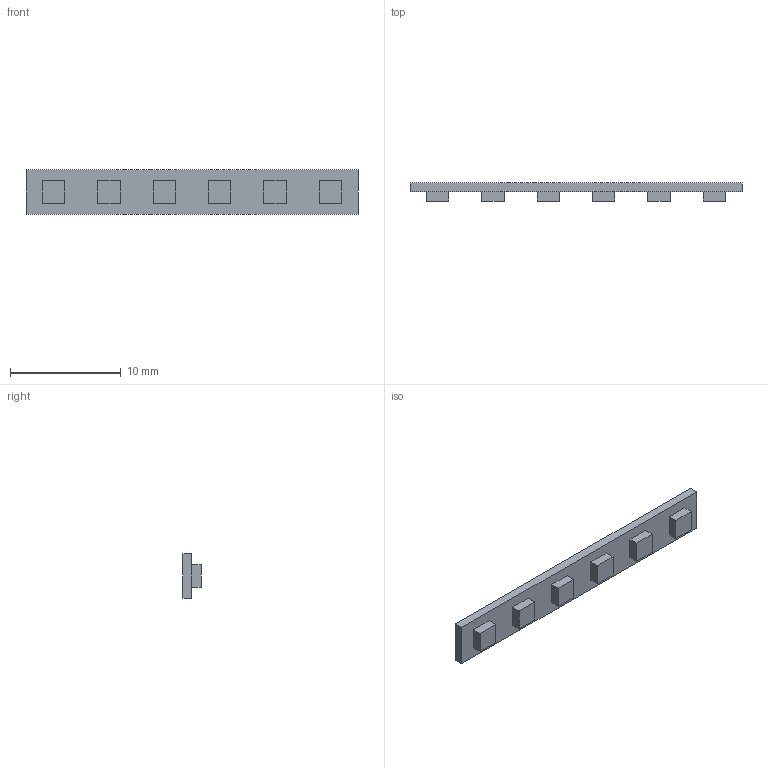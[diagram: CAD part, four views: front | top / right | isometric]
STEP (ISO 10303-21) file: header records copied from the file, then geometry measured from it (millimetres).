
FILE_DESCRIPTION(('Open CASCADE Model'),'2;1');
FILE_NAME('Open CASCADE Shape Model','2026-11-23T18:10:00',('Author'),( 'Open CASCADE'),'Open CASCADE STEP processor 8.0','build123d', 'Unknown');
FILE_SCHEMA(('AUTOMOTIVE_DESIGN { 1 0 10303 214 1 1 1 1 }'));
Length unit declared in the file: millimetre
Products named in the file (1): SOLID
Bounding box: 30 x 1.64 x 4 mm (x, y, z)
Volume: 116.2 mm3; surface area: 334.7 mm2
Topology: 1 solids, 1 shells, 36 faces, 84 edges, 56 vertices
Faces by surface type: plane 36
Entity records: 2062 total; most frequent: CARTESIAN_POINT 393, DIRECTION 278, LINE 204, VECTOR 204, ORIENTED_EDGE 168, PCURVE 168, DEFINITIONAL_REPRESENTATION 168, EDGE_CURVE 84
